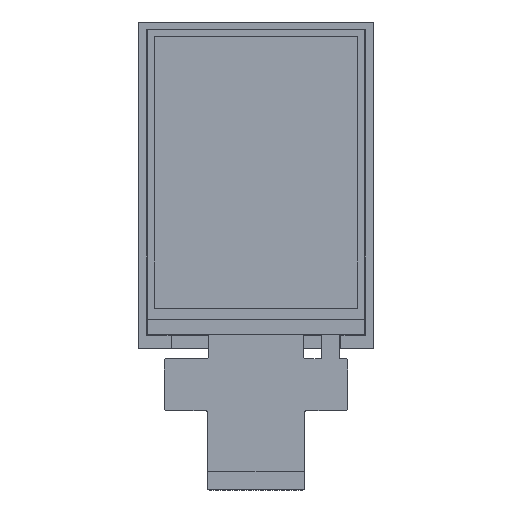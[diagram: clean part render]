
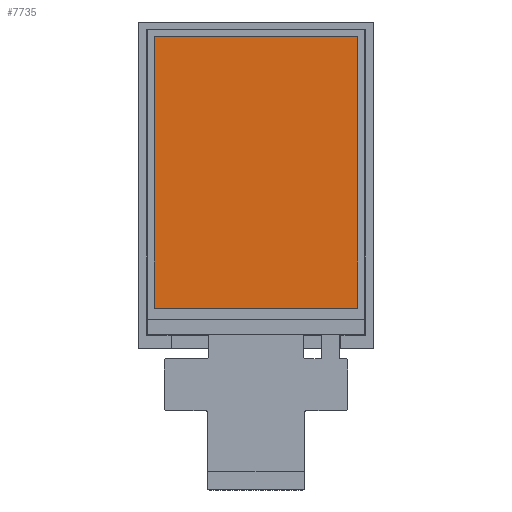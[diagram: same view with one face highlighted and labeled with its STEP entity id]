
A CAD part, top view. The second image highlights one B-rep face of the part: STEP entity #7735.
In plain terms, the highlighted planar face has unit normal (0, 0, 1).
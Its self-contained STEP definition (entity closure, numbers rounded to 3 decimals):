
#372 = VECTOR ( 'NONE', #1457, 1000. ) ;
#678 = ORIENTED_EDGE ( 'NONE', *, *, #4841, .T. ) ;
#870 = CARTESIAN_POINT ( 'NONE',  ( -21.6, 31.55, 2.401 ) ) ;
#958 = DIRECTION ( 'NONE',  ( -1., 0., 0. ) ) ;
#1050 = EDGE_CURVE ( 'NONE', #1174, #5430, #3475, .T. ) ;
#1174 = VERTEX_POINT ( 'NONE', #3595 ) ;
#1342 = PLANE ( 'NONE',  #7673 ) ;
#1349 = VERTEX_POINT ( 'NONE', #4309 ) ;
#1457 = DIRECTION ( 'NONE',  ( 0., -1., 0. ) ) ;
#1635 = DIRECTION ( 'NONE',  ( 0., 1., 0. ) ) ;
#1802 = ORIENTED_EDGE ( 'NONE', *, *, #3930, .T. ) ;
#1947 = CARTESIAN_POINT ( 'NONE',  ( 0., 0., 2.401 ) ) ;
#2167 = CARTESIAN_POINT ( 'NONE',  ( 21.6, 31.55, 2.401 ) ) ;
#2405 = EDGE_CURVE ( 'NONE', #5430, #7103, #3341, .T. ) ;
#2565 = DIRECTION ( 'NONE',  ( 0., 0., 1. ) ) ;
#3341 = LINE ( 'NONE', #7616, #6335 ) ;
#3475 = LINE ( 'NONE', #4466, #7685 ) ;
#3595 = CARTESIAN_POINT ( 'NONE',  ( -21.6, -26.05, 2.401 ) ) ;
#3896 = DIRECTION ( 'NONE',  ( 1., 0., 0. ) ) ;
#3930 = EDGE_CURVE ( 'NONE', #7103, #1349, #6492, .T. ) ;
#4309 = CARTESIAN_POINT ( 'NONE',  ( -21.6, 31.55, 2.401 ) ) ;
#4466 = CARTESIAN_POINT ( 'NONE',  ( -21.6, -26.05, 2.401 ) ) ;
#4526 = VECTOR ( 'NONE', #958, 1000. ) ;
#4631 = ORIENTED_EDGE ( 'NONE', *, *, #2405, .T. ) ;
#4800 = EDGE_LOOP ( 'NONE', ( #678, #6940, #4631, #1802 ) ) ;
#4841 = EDGE_CURVE ( 'NONE', #1349, #1174, #5171, .T. ) ;
#5171 = LINE ( 'NONE', #870, #372 ) ;
#5430 = VERTEX_POINT ( 'NONE', #6444 ) ;
#5549 = FACE_OUTER_BOUND ( 'NONE', #4800, .T. ) ;
#5762 = CARTESIAN_POINT ( 'NONE',  ( -21.6, 31.55, 2.401 ) ) ;
#6335 = VECTOR ( 'NONE', #1635, 1000. ) ;
#6444 = CARTESIAN_POINT ( 'NONE',  ( 21.6, -26.05, 2.401 ) ) ;
#6492 = LINE ( 'NONE', #5762, #4526 ) ;
#6760 = DIRECTION ( 'NONE',  ( 1., 0., 0. ) ) ;
#6940 = ORIENTED_EDGE ( 'NONE', *, *, #1050, .T. ) ;
#7103 = VERTEX_POINT ( 'NONE', #2167 ) ;
#7616 = CARTESIAN_POINT ( 'NONE',  ( 21.6, 31.55, 2.401 ) ) ;
#7673 = AXIS2_PLACEMENT_3D ( 'NONE', #1947, #2565, #6760 ) ;
#7685 = VECTOR ( 'NONE', #3896, 1000. ) ;
#7735 = ADVANCED_FACE ( 'NONE', ( #5549 ), #1342, .T. ) ;
